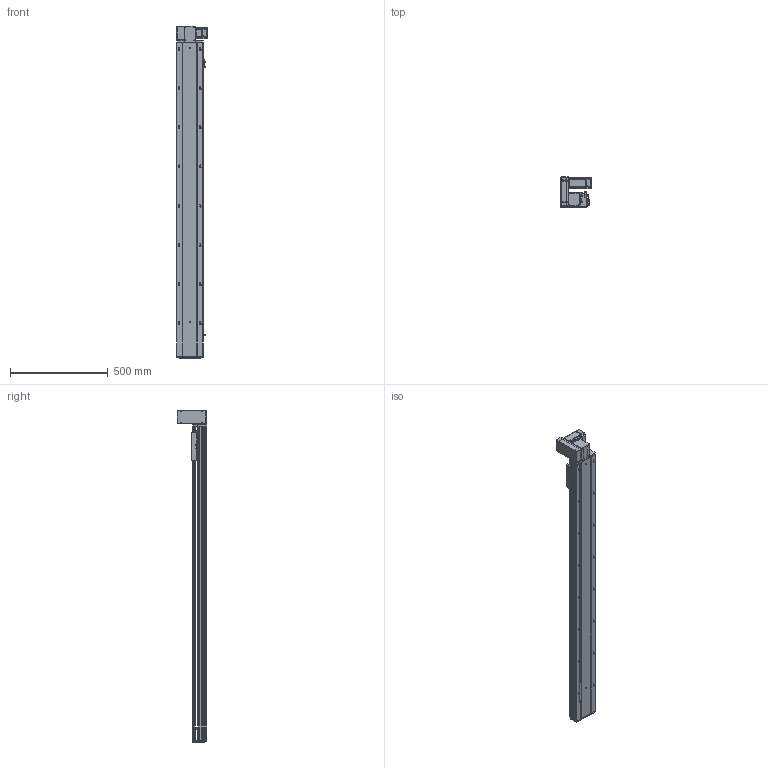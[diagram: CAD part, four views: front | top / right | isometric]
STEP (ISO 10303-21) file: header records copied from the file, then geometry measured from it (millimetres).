
FILE_DESCRIPTION (( 'STEP AP203' ), '1' );
FILE_NAME ('RY140-T-300-UL.SLDASM_1350.step', '2021-03-01T07:44:20', ( '盈信电脑' ), ( '东莞市道滘镇水果街19号' ), 'SwSTEP 2.0', 'SolidWorks 2012', '' );
FILE_SCHEMA (( 'CONFIG_CONTROL_DESIGN' ));
Length unit declared in the file: millimetre
Products named in the file (18): RY140-T-300-UL.SLDASM_1350; RY120-T蹟翐M4; RY140-T翋肮謫裔啣; RY140-T萇儂欶; 滅袉蝶18-10; 侂狟400W侜督萇儂; 15; RY120-T主同步轮轴承压盖; RY140-T萇儂假蚾啣; RY120-T肮祭湍揤踡輸2; RY140-T翋肮祭謫盓傅釱; RY120-T肮祭湍揤踡輸1; RY140綴裔啣; RY120外置感应片(140共用）; 覜茼ん672; RY140-T-300-DL倰第奻裔啣_1350; RY140肮祭謫臏賑輸; RY140-T-300-DL倰第菁釱_1350
Assembly tree (23 placements, depth 3):
  RY140-T-300-UL.SLDASM_1350
    RY140-T-300-DL倰第菁釱_1350
    RY140肮祭謫臏賑輸
    RY140-T-300-DL倰第奻裔啣_1350
    RY140綴裔啣
    覜茼ん672  x3
    RY120外置感应片(140共用）
    RY120-T肮祭湍揤踡輸2
    RY120-T肮祭湍揤踡輸1
    RY140-T翋肮祭謫盓傅釱
    RY140-T萇儂假蚾啣
    侂狟400W侜督萇儂
      15
    RY120-T主同步轮轴承压盖
    RY120-T蹟翐M4  x4
    RY140-T萇儂欶
    滅袉蝶18-10  x2
    RY140-T翋肮謫裔啣
Bounding box: 157 x 152.5 x 1696 mm (x, y, z)
Volume: 4835464.4 mm3; surface area: 1865852.3 mm2
Topology: 22 solids, 22 shells, 2735 faces, 7477 edges, 4780 vertices
Faces by surface type: plane 1381, cylinder 1008, cone 246, bspline 100
Entity records: 86283 total; most frequent: CARTESIAN_POINT 20969, ORIENTED_EDGE 13394, DIRECTION 12789, EDGE_CURVE 6697, VERTEX_POINT 4379, VECTOR 4269, LINE 4269, AXIS2_PLACEMENT_3D 4260
